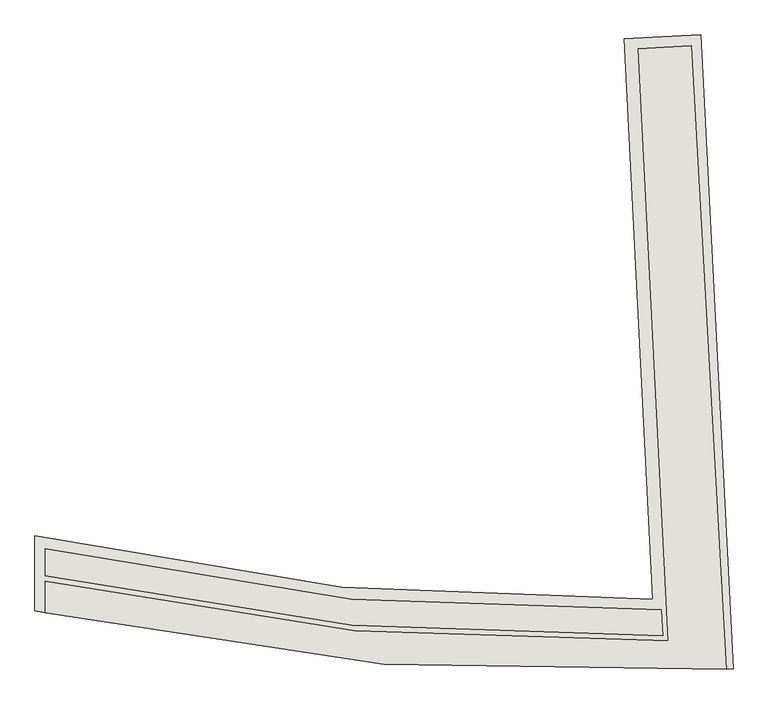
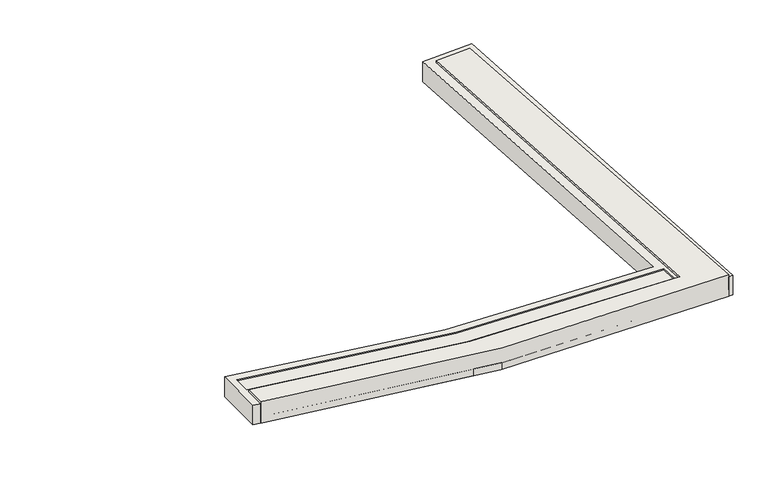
"""IFC4 building model written with IfcOpenShell, lengths in millimetres: wall geometry, Abnema : Abnema."""

from ifc_helpers import new_model, si_unit, point, frame, frame_2d, origin, place, context, project, spatial, polyline, circle_curve, trimmed, segment, composite_curve, outline, extrude, source, transform, mapped, element, save
from ifc_brep_helpers import plane_surface, cylinder_surface, revolved_surface, advanced_brep


def wall_29d2bf6c(model_context):
    return source(origin(), model_context, "Body", "SolidModel", [
        extrude(outline(composite_curve([segment(polyline([(6436.5768235, -11943.2829843), (6436.5768235, -11686.870512)]), True, "CONTINUOUS"), segment(trimmed(circle_curve(frame_2d((11614.238739, 10838.5413013)), 23112.8180945), [point((6436.5768235, -11686.870512))], [point((12302.8595634, -12264.0161682))], True, "CARTESIAN"), True, "CONTINUOUS"), segment(polyline([(12302.8595634, -12264.0161682), (12315.4019673, -12512.7879408)]), True, "CONTINUOUS"), segment(trimmed(circle_curve(frame_2d((11609.3430797, 10826.1902183)), 23349.6556862), [point((12315.4019673, -12512.7879408))], [point((6436.5768235, -11943.2829843))], False, "CARTESIAN"), True, "CONTINUOUS")], self_intersect=False)), frame((0.0, 0.0, 25500.0), z_axis=(0.0, 0.0, 1.0), x_axis=(1.0, 0.0, 0.0)), (0.0, 0.0, 1.0), 280.0),
        extrude(outline(composite_curve([segment(polyline([(12084.283734, -6924.392798), (12589.4182753, -6896.0391865), (12922.509374, -12830.2327659)]), True, "CONTINUOUS"), segment(trimmed(circle_curve(frame_2d((11609.3245394, 10843.3737526)), 23710.0), [point((12922.509374, -12830.2327659))], [point((6436.5768235, -12295.4849286))], False, "CARTESIAN"), True, "CONTINUOUS"), segment(polyline([(6436.5768235, -12295.4849286), (6436.5768235, -11994.5732669)]), True, "CONTINUOUS"), segment(trimmed(circle_curve(frame_2d((11608.4861808, 10817.9880942)), 23391.4856786), [point((6436.5768235, -11994.5732669))], [point((12367.9046091, -12561.16685))], True, "CARTESIAN"), True, "CONTINUOUS"), segment(polyline([(12367.9046091, -12561.16685), (12084.283734, -6924.392798)]), True, "CONTINUOUS")], self_intersect=False)), frame((0.0, 0.0, 25500.0), z_axis=(0.0, 0.0, 1.0), x_axis=(1.0, 0.0, 0.0)), (0.0, 0.0, 1.0), 330.0),
        advanced_brep(
        [(12985.8850698, -12826.6321854, 25800.0), (12678.6593443, -6790.8620185, 25800.0), (11949.1359754, -6827.9953652, 25800.0), (12220.7033632, -12163.2202546, 25800.0), (6336.5768235, -11560.777535, 25800.0), (6336.5768235, -12272.9025809, 25800.0), (6436.5768235, -12295.4849286, 25800.0), (6436.5768235, -11994.5732669, 25800.0), (12367.9046091, -12561.16685, 25800.0), (12084.283734, -6924.392798, 25800.0), (12589.4182753, -6896.0391865, 25800.0), (12922.509374, -12830.2327659, 25800.0), (6436.5768235, -11686.870512, 25800.0), (12302.8595634, -12264.0161682, 25800.0), (12315.4019673, -12512.7879408, 25800.0), (6436.5768235, -11943.2829843, 25800.0), (6336.5768235, -12272.9025809, 25500.0), (6336.5768235, -11560.777535, 25500.0), (12220.7033632, -12163.2202546, 25500.0), (11949.1359754, -6827.9953652, 25500.0), (12678.6593443, -6790.8620185, 25500.0), (12985.8850698, -12826.6321854, 25500.0), (12922.509374, -12830.2327659, 25600.0), (6436.5768235, -12295.4849286, 25600.0), (12302.8595634, -12264.0161682, 25600.0), (6436.5768235, -11686.870512, 25600.0), (6436.5768235, -11943.2829843, 25600.0), (12315.4019673, -12512.7879408, 25600.0), (12367.9046091, -12561.16685, 25600.0), (6436.5768235, -11994.5732669, 25600.0), (12589.4182753, -6896.0391865, 25600.0), (12084.283734, -6924.392798, 25600.0)],
        [
            (0, 1),
            (1, 2),
            (2, 3),
            (3, 4, circle_curve(frame((11602.8606637, 10838.9276784, 25800.0), z_axis=(0.0, 0.0, -1.0), x_axis=(1.0, 0.0, 0.0)), 23010.4441316)),
            (4, 5),
            (5, 6, circle_curve(frame((11609.3245394, 10843.3737526, 25800.0), z_axis=(0.0, 0.0, 1.0), x_axis=(1.0, 0.0, 0.0)), 23710.0)),
            (6, 7),
            (7, 8, circle_curve(frame((11608.4861808, 10817.9880942, 25800.0), z_axis=(0.0, 0.0, 1.0), x_axis=(1.0, 0.0, 0.0)), 23391.4856786)),
            (8, 9),
            (9, 10),
            (10, 11),
            (11, 0, circle_curve(frame((11609.3245394, 10843.3737526, 25800.0), z_axis=(0.0, 0.0, 1.0), x_axis=(1.0, 0.0, 0.0)), 23710.0)),
            (12, 13, circle_curve(frame((11614.238739, 10838.5413013, 25800.0), z_axis=(0.0, 0.0, 1.0), x_axis=(1.0, 0.0, 0.0)), 23112.8180945)),
            (13, 14),
            (14, 15, circle_curve(frame((11609.3430797, 10826.1902183, 25800.0), z_axis=(0.0, 0.0, -1.0), x_axis=(1.0, 0.0, 0.0)), 23349.6556862)),
            (15, 12),
            (16, 17),
            (17, 18, circle_curve(frame((11602.8606637, 10838.9276784, 25500.0), z_axis=(0.0, 0.0, 1.0), x_axis=(1.0, 0.0, 0.0)), 23010.4441316)),
            (18, 19),
            (19, 20),
            (20, 21),
            (21, 16, circle_curve(frame((11609.3245394, 10843.3737526, 25500.0), z_axis=(0.0, 0.0, -1.0), x_axis=(1.0, 0.0, 0.0)), 23710.0)),
            (21, 0),
            (11, 22),
            (22, 23, circle_curve(frame((11609.3245394, 10843.3737526, 25600.0), z_axis=(0.0, 0.0, -1.0), x_axis=(1.0, 0.0, 0.0)), 23710.0)),
            (23, 6),
            (5, 16),
            (20, 1),
            (19, 2),
            (18, 3),
            (17, 4),
            (24, 25, circle_curve(frame((11614.238739, 10838.5413013, 25600.0), z_axis=(0.0, 0.0, -1.0), x_axis=(1.0, 0.0, 0.0)), 23112.8180945)),
            (25, 26),
            (26, 27, circle_curve(frame((11609.3430797, 10826.1902183, 25600.0), z_axis=(0.0, 0.0, 1.0), x_axis=(1.0, 0.0, 0.0)), 23349.6556862)),
            (27, 24),
            (28, 29, circle_curve(frame((11608.4861808, 10817.9880942, 25600.0), z_axis=(0.0, 0.0, -1.0), x_axis=(1.0, 0.0, 0.0)), 23391.4856786)),
            (29, 23),
            (22, 30),
            (30, 31),
            (31, 28),
            (24, 13),
            (12, 25),
            (15, 26),
            (14, 27),
            (28, 8),
            (7, 29),
            (10, 30),
            (9, 31),
        ],
        [
            plane_surface(frame((35319.3245394, 10843.3737526, 25800.0), z_axis=(0.0, 0.0, 1.0), x_axis=(0.0, 1.0, 0.0))),
            plane_surface(frame((35319.3245394, 10843.3737526, 25500.0), z_axis=(0.0, 0.0, -1.0), x_axis=(0.0, -1.0, 0.0))),
            cylinder_surface(frame((11609.3245394, 10843.3737526, 25500.0), z_axis=(0.0, 0.0, 1.0), x_axis=(1.0, 0.0, 0.0)), 23710.0),
            plane_surface(frame((12985.8850698, -12826.6321854, 25800.0), z_axis=(0.9987070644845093, 0.05083502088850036, 0.0), x_axis=(0.0, 0.0, -1.0))),
            plane_surface(frame((12678.6593443, -6790.8620185, 25800.0), z_axis=(-0.05083502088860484, 0.998707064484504, 0.0), x_axis=(0.0, 0.0, -1.0))),
            plane_surface(frame((11949.1359754, -6827.9953652, 25800.0), z_axis=(-0.998707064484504, -0.05083502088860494, 0.0), x_axis=(0.0, 0.0, -1.0))),
            revolved_surface(polyline([(34613.3047953, 10838.9276784, 25500.0), (34613.3047953, 10838.9276784, 25800.0)]), (11602.8606637, 10838.9276784, 25500.0), (0.0, 0.0, -1.0)),
            plane_surface(frame((6336.5768235, -11560.777535, 25800.0), z_axis=(-1.0, 0.0, 0.0), x_axis=(0.0, 0.0, -1.0))),
            plane_surface(frame((34727.0568334, 10838.5413013, 25600.0), z_axis=(0.0, 0.0, 1.0), x_axis=(0.0, 1.0, 0.0))),
            cylinder_surface(frame((11614.238739, 10838.5413013, 25600.0), z_axis=(0.0, 0.0, -1.0), x_axis=(1.0, 0.0, 0.0)), 23112.8180945),
            plane_surface(frame((6436.5768235, -11686.870512, 25900.0), z_axis=(1.0, 0.0, 0.0), x_axis=(0.0, 0.0, -1.0))),
            revolved_surface(polyline([(34958.9987659, 10826.1902183, 25800.0), (34958.9987659, 10826.1902183, 25600.0)]), (11609.3430797, 10826.1902183, 25600.0), (0.0, 0.0, 1.0)),
            plane_surface(frame((12315.4019673, -12512.7879408, 25900.0), z_axis=(-0.9987314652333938, -0.050353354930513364, 0.0), x_axis=(0.0, 0.0, -1.0))),
            cylinder_surface(frame((11608.4861808, 10817.9880942, 25500.0), z_axis=(0.0, 0.0, -1.0), x_axis=(1.0, 0.0, 0.0)), 23391.4856786),
            plane_surface(frame((6436.5768235, -11994.5732669, 25900.0), z_axis=(1.0, 0.0, 0.0), x_axis=(0.0, 0.0, -1.0))),
            plane_surface(frame((12922.509374, -12830.2327659, 25900.0), z_axis=(-0.998428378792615, -0.05604259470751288, 0.0), x_axis=(0.0, 0.0, -1.0))),
            plane_surface(frame((12589.4182753, -6896.0391865, 25900.0), z_axis=(0.056042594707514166, -0.9984283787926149, 0.0), x_axis=(0.0, 0.0, -1.0))),
            plane_surface(frame((12084.283734, -6924.392798, 25900.0), z_axis=(0.9987365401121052, 0.050252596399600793, 0.0), x_axis=(0.0, 0.0, -1.0))),
        ],
        [
            (0, [[1, 2, 3, 4, 5, 6, 7, 8, 9, 10, 11, 12], [13, 14, 15, 16]]),
            (1, [[17, 18, 19, 20, 21, 22]]),
            (2, [[-22, 23, -12, 24, 25, 26, -6, 27]]),
            (3, [[-1, -23, -21, 28]]),
            (4, [[-2, -28, -20, 29]]),
            (5, [[-3, -29, -19, 30]]),
            (6, [[-4, -30, -18, 31]]),
            (7, [[-5, -31, -17, -27]]),
            (8, [[32, 33, 34, 35]]),
            (8, [[36, 37, -25, 38, 39, 40]]),
            (9, [[-32, 41, -13, 42]]),
            (10, [[-33, -42, -16, 43]]),
            (11, [[-34, -43, -15, 44]]),
            (12, [[-35, -44, -14, -41]]),
            (13, [[-36, 45, -8, 46]]),
            (14, [[-37, -46, -7, -26]]),
            (15, [[-38, -24, -11, 47]]),
            (16, [[-39, -47, -10, 48]]),
            (17, [[-40, -48, -9, -45]]),
        ],
    ),
    ])


if __name__ == "__main__":
    model = new_model("IFC4")
    model_context = context("Model", 3, world=origin())
    ifc_project = project(units=[si_unit("LENGTHUNIT", "METRE", prefix="MILLI")], contexts=[model_context])
    site = spatial("IfcSite", under=ifc_project)
    building = spatial("IfcBuilding", under=site)
    placement = place(None, origin())
    wall_shape = wall_29d2bf6c(model_context)
    element("IfcWall", 1, ObjectType="Abnema : Abnema", at=placement, inside=building, context=model_context, shape_type="MappedRepresentation", body=[
        mapped(wall_shape, transform((0.0, 0.0, 0.0), x_axis=(1.0, 0.0, 0.0), y_axis=(0.0, 1.0, 0.0), z_axis=(0.0, 0.0, 1.0))),
    ])
    save(model, "model.ifc")
